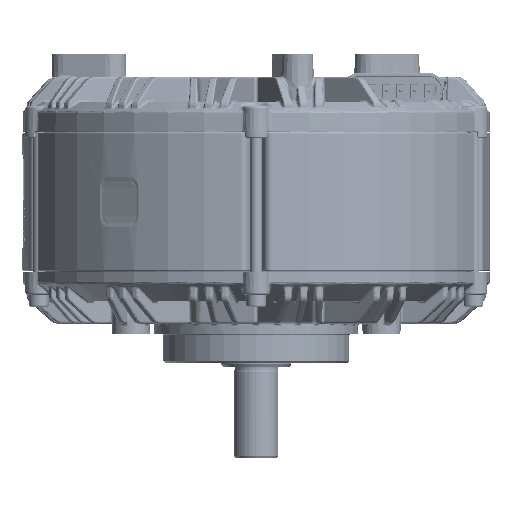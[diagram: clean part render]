
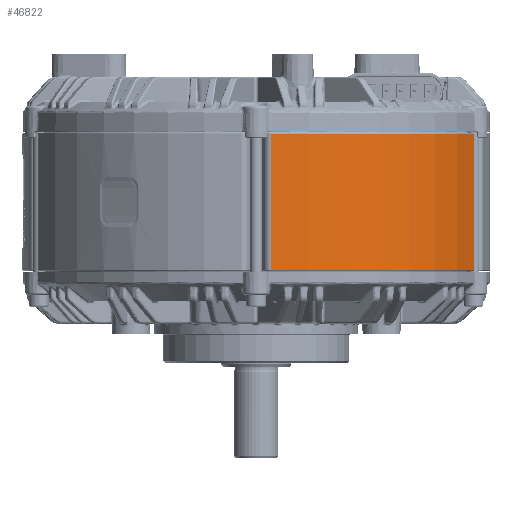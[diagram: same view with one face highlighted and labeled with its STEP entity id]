
A CAD part, front view. The second image highlights one B-rep face of the part: STEP entity #46822.
In plain terms, the highlighted cylindrical face has radius 100.5 mm (diameter 201 mm), a partial arc.
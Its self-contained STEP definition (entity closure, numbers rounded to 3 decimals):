
#38612 = ORIENTED_EDGE ( 'NONE', *, *, #201927, .T. ) ;
#43991 = CARTESIAN_POINT ( 'NONE',  ( -93.378, -37.159, -37.58 ) ) ;
#44094 = FACE_OUTER_BOUND ( 'NONE', #297270, .T. ) ;
#45429 = CARTESIAN_POINT ( 'NONE',  ( -6.485, -100.291, 29.1 ) ) ;
#46822 = ADVANCED_FACE ( 'NONE', ( #44094 ), #423769, .T. ) ;
#50833 = LINE ( 'NONE', #43991, #168710 ) ;
#72488 = EDGE_CURVE ( 'NONE', #402466, #410651, #302351, .T. ) ;
#83209 = DIRECTION ( 'NONE',  ( 1., 0., 0. ) ) ;
#100338 = CARTESIAN_POINT ( 'NONE',  ( -93.378, -37.159, 29.1 ) ) ;
#117610 = DIRECTION ( 'NONE',  ( 0., 0., -1. ) ) ;
#140232 = DIRECTION ( 'NONE',  ( 0., 0., 1. ) ) ;
#144148 = DIRECTION ( 'NONE',  ( -1., 0., 0. ) ) ;
#145422 = DIRECTION ( 'NONE',  ( 0., 0., 1. ) ) ;
#147902 = VERTEX_POINT ( 'NONE', #264373 ) ;
#160367 = VECTOR ( 'NONE', #140232, 1000. ) ;
#168710 = VECTOR ( 'NONE', #117610, 1000. ) ;
#175207 = CIRCLE ( 'NONE', #307534, 100.5 ) ;
#201927 = EDGE_CURVE ( 'NONE', #348290, #402466, #420857, .T. ) ;
#229791 = AXIS2_PLACEMENT_3D ( 'NONE', #391487, #145422, #83209 ) ;
#240296 = DIRECTION ( 'NONE',  ( 0., 0., 1. ) ) ;
#264373 = CARTESIAN_POINT ( 'NONE',  ( -93.378, -37.159, -29.3 ) ) ;
#297270 = EDGE_LOOP ( 'NONE', ( #357842, #343470, #38612, #442668 ) ) ;
#302351 = CIRCLE ( 'NONE', #397484, 100.5 ) ;
#302534 = CARTESIAN_POINT ( 'NONE',  ( 0., 0., -29.3 ) ) ;
#307534 = AXIS2_PLACEMENT_3D ( 'NONE', #302534, #240296, #410484 ) ;
#310536 = EDGE_CURVE ( 'NONE', #147902, #348290, #175207, .T. ) ;
#317561 = CARTESIAN_POINT ( 'NONE',  ( -6.485, -100.291, -29.3 ) ) ;
#343470 = ORIENTED_EDGE ( 'NONE', *, *, #310536, .T. ) ;
#348290 = VERTEX_POINT ( 'NONE', #317561 ) ;
#351877 = CARTESIAN_POINT ( 'NONE',  ( -6.485, -100.291, -37.58 ) ) ;
#357842 = ORIENTED_EDGE ( 'NONE', *, *, #380242, .T. ) ;
#380242 = EDGE_CURVE ( 'NONE', #410651, #147902, #50833, .T. ) ;
#387952 = CARTESIAN_POINT ( 'NONE',  ( 0., 0., 29.1 ) ) ;
#391487 = CARTESIAN_POINT ( 'NONE',  ( 0., 0., -37.58 ) ) ;
#392506 = DIRECTION ( 'NONE',  ( 0., 0., -1. ) ) ;
#397484 = AXIS2_PLACEMENT_3D ( 'NONE', #387952, #392506, #144148 ) ;
#402466 = VERTEX_POINT ( 'NONE', #45429 ) ;
#410484 = DIRECTION ( 'NONE',  ( 1., 0., 0. ) ) ;
#410651 = VERTEX_POINT ( 'NONE', #100338 ) ;
#420857 = LINE ( 'NONE', #351877, #160367 ) ;
#423769 = CYLINDRICAL_SURFACE ( 'NONE', #229791, 100.5 ) ;
#442668 = ORIENTED_EDGE ( 'NONE', *, *, #72488, .T. ) ;
